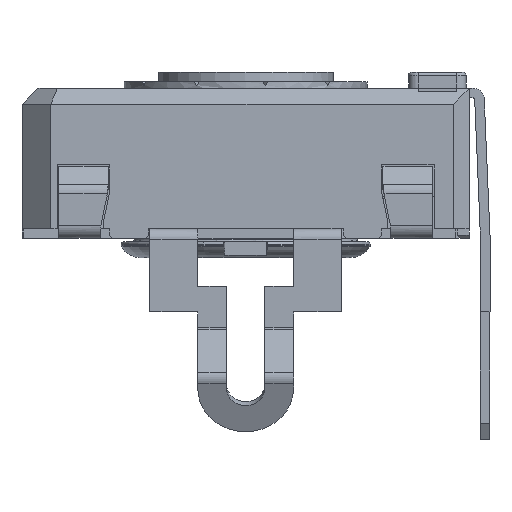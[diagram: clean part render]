
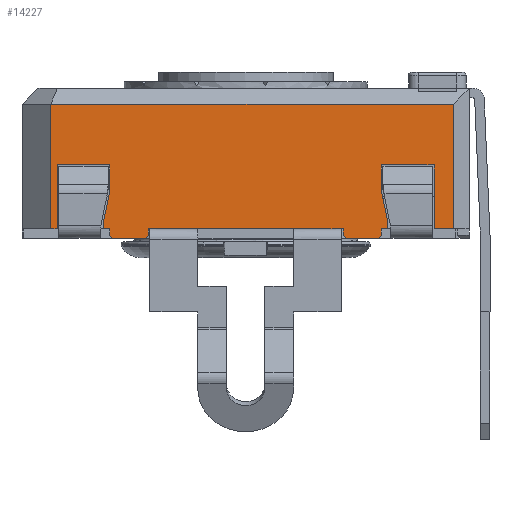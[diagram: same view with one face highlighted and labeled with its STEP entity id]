
A CAD part, left-side view. The second image highlights one B-rep face of the part: STEP entity #14227.
In plain terms, the highlighted planar face has unit normal (-1, 0, 0).
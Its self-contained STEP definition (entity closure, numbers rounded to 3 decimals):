
#485=PLANE('',#15206);
#1142=FACE_OUTER_BOUND('',#1878,.T.);
#1878=EDGE_LOOP('',(#11815,#11816,#11817,#11818,#11819,#11820,#11821,#11822,
#11823,#11824,#11825,#11826,#11827,#11828,#11829,#11830,#11831,#11832,#11833,
#11834,#11835,#11836,#11837,#11838,#11839,#11840,#11841,#11842));
#2441=LINE('',#20220,#4062);
#2446=LINE('',#20230,#4067);
#2451=LINE('',#20240,#4072);
#2562=LINE('',#20488,#4183);
#3069=LINE('',#22049,#4690);
#3074=LINE('',#22058,#4695);
#3077=LINE('',#22064,#4698);
#3081=LINE('',#22071,#4702);
#3105=LINE('',#22119,#4726);
#3108=LINE('',#22125,#4729);
#3113=LINE('',#22135,#4734);
#3116=LINE('',#22141,#4737);
#3119=LINE('',#22147,#4740);
#3134=LINE('',#22174,#4755);
#3146=LINE('',#22196,#4767);
#3148=LINE('',#22201,#4769);
#3183=LINE('',#22329,#4804);
#3186=LINE('',#22335,#4807);
#3191=LINE('',#22345,#4812);
#3193=LINE('',#22348,#4814);
#3300=LINE('',#22627,#4921);
#3302=LINE('',#22632,#4923);
#3305=LINE('',#22636,#4926);
#3307=LINE('',#22640,#4928);
#3310=LINE('',#22648,#4931);
#3311=LINE('',#22650,#4932);
#3312=LINE('',#22651,#4933);
#3313=LINE('',#22652,#4934);
#4062=VECTOR('',#16223,10.);
#4067=VECTOR('',#16228,10.);
#4072=VECTOR('',#16233,10.);
#4183=VECTOR('',#16444,10.);
#4690=VECTOR('',#17681,10.);
#4695=VECTOR('',#17688,10.);
#4698=VECTOR('',#17693,10.);
#4702=VECTOR('',#17699,10.);
#4726=VECTOR('',#17743,10.);
#4729=VECTOR('',#17748,10.);
#4734=VECTOR('',#17755,10.);
#4737=VECTOR('',#17760,10.);
#4740=VECTOR('',#17765,10.);
#4755=VECTOR('',#17782,10.);
#4767=VECTOR('',#17796,10.);
#4769=VECTOR('',#17800,10.);
#4804=VECTOR('',#17879,10.);
#4807=VECTOR('',#17884,10.);
#4812=VECTOR('',#17891,10.);
#4814=VECTOR('',#17895,10.);
#4921=VECTOR('',#18154,10.);
#4923=VECTOR('',#18158,10.);
#4926=VECTOR('',#18163,10.);
#4928=VECTOR('',#18169,10.);
#4931=VECTOR('',#18180,10.);
#4932=VECTOR('',#18181,10.);
#4933=VECTOR('',#18182,10.);
#4934=VECTOR('',#18183,10.);
#6028=VERTEX_POINT('',#20217);
#6029=VERTEX_POINT('',#20219);
#6033=VERTEX_POINT('',#20227);
#6034=VERTEX_POINT('',#20229);
#6038=VERTEX_POINT('',#20237);
#6039=VERTEX_POINT('',#20239);
#6125=VERTEX_POINT('',#20485);
#6126=VERTEX_POINT('',#20487);
#6562=VERTEX_POINT('',#22046);
#6563=VERTEX_POINT('',#22048);
#6567=VERTEX_POINT('',#22061);
#6570=VERTEX_POINT('',#22069);
#6583=VERTEX_POINT('',#22116);
#6585=VERTEX_POINT('',#22122);
#6589=VERTEX_POINT('',#22132);
#6591=VERTEX_POINT('',#22138);
#6594=VERTEX_POINT('',#22145);
#6605=VERTEX_POINT('',#22172);
#6614=VERTEX_POINT('',#22194);
#6616=VERTEX_POINT('',#22199);
#6640=VERTEX_POINT('',#22332);
#6644=VERTEX_POINT('',#22342);
#6711=VERTEX_POINT('',#22624);
#6712=VERTEX_POINT('',#22626);
#6713=VERTEX_POINT('',#22630);
#6714=VERTEX_POINT('',#22631);
#6715=VERTEX_POINT('',#22647);
#6716=VERTEX_POINT('',#22649);
#7450=EDGE_CURVE('',#6029,#6028,#2441,.T.);
#7455=EDGE_CURVE('',#6034,#6033,#2446,.T.);
#7460=EDGE_CURVE('',#6039,#6038,#2451,.T.);
#7586=EDGE_CURVE('',#6126,#6125,#2562,.T.);
#8265=EDGE_CURVE('',#6563,#6562,#3069,.T.);
#8270=EDGE_CURVE('',#6562,#6039,#3074,.T.);
#8273=EDGE_CURVE('',#6038,#6567,#3077,.T.);
#8277=EDGE_CURVE('',#6570,#6567,#3081,.T.);
#8302=EDGE_CURVE('',#6028,#6583,#3105,.T.);
#8305=EDGE_CURVE('',#6583,#6585,#3108,.T.);
#8310=EDGE_CURVE('',#6585,#6589,#3113,.T.);
#8313=EDGE_CURVE('',#6589,#6591,#3116,.T.);
#8316=EDGE_CURVE('',#6591,#6594,#3119,.T.);
#8331=EDGE_CURVE('',#6594,#6605,#3134,.T.);
#8343=EDGE_CURVE('',#6614,#6605,#3146,.T.);
#8345=EDGE_CURVE('',#6616,#6614,#3148,.T.);
#8392=EDGE_CURVE('',#6126,#6616,#3183,.T.);
#8395=EDGE_CURVE('',#6125,#6640,#3186,.T.);
#8400=EDGE_CURVE('',#6640,#6644,#3191,.T.);
#8402=EDGE_CURVE('',#6644,#6563,#3193,.T.);
#8525=EDGE_CURVE('',#6711,#6712,#3300,.T.);
#8527=EDGE_CURVE('',#6713,#6714,#3302,.T.);
#8530=EDGE_CURVE('',#6029,#6711,#3305,.T.);
#8532=EDGE_CURVE('',#6033,#6714,#3307,.T.);
#8535=EDGE_CURVE('',#6570,#6715,#3310,.T.);
#8536=EDGE_CURVE('',#6716,#6715,#3311,.T.);
#8537=EDGE_CURVE('',#6034,#6716,#3312,.T.);
#8538=EDGE_CURVE('',#6713,#6712,#3313,.T.);
#11815=ORIENTED_EDGE('',*,*,#8270,.T.);
#11816=ORIENTED_EDGE('',*,*,#7460,.T.);
#11817=ORIENTED_EDGE('',*,*,#8273,.T.);
#11818=ORIENTED_EDGE('',*,*,#8277,.F.);
#11819=ORIENTED_EDGE('',*,*,#8535,.T.);
#11820=ORIENTED_EDGE('',*,*,#8536,.F.);
#11821=ORIENTED_EDGE('',*,*,#8537,.F.);
#11822=ORIENTED_EDGE('',*,*,#7455,.T.);
#11823=ORIENTED_EDGE('',*,*,#8532,.T.);
#11824=ORIENTED_EDGE('',*,*,#8527,.F.);
#11825=ORIENTED_EDGE('',*,*,#8538,.T.);
#11826=ORIENTED_EDGE('',*,*,#8525,.F.);
#11827=ORIENTED_EDGE('',*,*,#8530,.F.);
#11828=ORIENTED_EDGE('',*,*,#7450,.T.);
#11829=ORIENTED_EDGE('',*,*,#8302,.T.);
#11830=ORIENTED_EDGE('',*,*,#8305,.T.);
#11831=ORIENTED_EDGE('',*,*,#8310,.T.);
#11832=ORIENTED_EDGE('',*,*,#8313,.T.);
#11833=ORIENTED_EDGE('',*,*,#8316,.T.);
#11834=ORIENTED_EDGE('',*,*,#8331,.T.);
#11835=ORIENTED_EDGE('',*,*,#8343,.F.);
#11836=ORIENTED_EDGE('',*,*,#8345,.F.);
#11837=ORIENTED_EDGE('',*,*,#8392,.F.);
#11838=ORIENTED_EDGE('',*,*,#7586,.T.);
#11839=ORIENTED_EDGE('',*,*,#8395,.T.);
#11840=ORIENTED_EDGE('',*,*,#8400,.T.);
#11841=ORIENTED_EDGE('',*,*,#8402,.T.);
#11842=ORIENTED_EDGE('',*,*,#8265,.T.);
#14227=ADVANCED_FACE('',(#1142),#485,.T.);
#15206=AXIS2_PLACEMENT_3D('',#22646,#18178,#18179);
#16223=DIRECTION('',(0.,-1.,0.));
#16228=DIRECTION('',(0.,-1.,0.));
#16233=DIRECTION('',(0.,-1.,0.));
#16444=DIRECTION('',(0.,-1.,0.));
#17681=DIRECTION('',(0.,0.208,-0.978));
#17688=DIRECTION('',(0.,0.,-1.));
#17693=DIRECTION('',(0.,0.,-1.));
#17699=DIRECTION('',(0.,0.707,0.707));
#17743=DIRECTION('',(0.,0.,1.));
#17748=DIRECTION('',(0.,0.208,0.978));
#17755=DIRECTION('',(0.,0.,1.));
#17760=DIRECTION('',(0.,-1.,0.));
#17765=DIRECTION('',(0.,0.,-1.));
#17782=DIRECTION('',(0.,-1.,0.));
#17796=DIRECTION('',(0.,0.,-1.));
#17800=DIRECTION('',(0.,-1.,0.));
#17879=DIRECTION('',(0.,0.,1.));
#17884=DIRECTION('',(0.,0.,1.));
#17891=DIRECTION('',(0.,-1.,0.));
#17895=DIRECTION('',(0.,0.,-1.));
#18154=DIRECTION('',(0.,0.707,-0.707));
#18158=DIRECTION('',(0.,0.707,0.707));
#18163=DIRECTION('',(0.,0.,-1.));
#18169=DIRECTION('',(0.,0.,-1.));
#18178=DIRECTION('center_axis',(-1.,0.,0.));
#18179=DIRECTION('ref_axis',(0.,0.,1.));
#18180=DIRECTION('',(0.,-1.,0.));
#18181=DIRECTION('',(0.,0.707,-0.707));
#18182=DIRECTION('',(0.,0.,-1.));
#18183=DIRECTION('',(0.,-1.,0.));
#20217=CARTESIAN_POINT('',(-14.467,-7.348,0.));
#20219=CARTESIAN_POINT('',(-14.467,-7.148,0.));
#20220=CARTESIAN_POINT('',(-14.467,4.102,0.));
#20227=CARTESIAN_POINT('',(-14.467,-5.948,0.));
#20229=CARTESIAN_POINT('',(-14.467,0.152,0.));
#20230=CARTESIAN_POINT('',(-14.467,4.102,0.));
#20237=CARTESIAN_POINT('',(-14.467,1.352,0.));
#20239=CARTESIAN_POINT('',(-14.467,1.552,0.));
#20240=CARTESIAN_POINT('',(-14.467,4.102,0.));
#20485=CARTESIAN_POINT('',(-14.467,3.002,0.));
#20487=CARTESIAN_POINT('',(-14.467,3.202,0.));
#20488=CARTESIAN_POINT('',(-14.467,-2.985,0.));
#22046=CARTESIAN_POINT('',(-14.467,1.552,0.235));
#22048=CARTESIAN_POINT('',(-14.467,1.352,1.176));
#22049=CARTESIAN_POINT('',(-14.467,1.228,1.757));
#22058=CARTESIAN_POINT('',(-14.467,1.552,0.));
#22061=CARTESIAN_POINT('',(-14.467,1.352,-0.2));
#22064=CARTESIAN_POINT('',(-14.467,1.352,0.));
#22069=CARTESIAN_POINT('',(-14.467,1.252,-0.3));
#22071=CARTESIAN_POINT('',(-14.467,-1.436,-2.988));
#22116=CARTESIAN_POINT('',(-14.467,-7.348,0.235));
#22119=CARTESIAN_POINT('',(-14.467,-7.348,0.118));
#22122=CARTESIAN_POINT('',(-14.467,-7.148,1.176));
#22125=CARTESIAN_POINT('',(-14.467,-7.453,-0.254));
#22132=CARTESIAN_POINT('',(-14.467,-7.148,2.));
#22135=CARTESIAN_POINT('',(-14.467,-7.148,0.588));
#22138=CARTESIAN_POINT('',(-14.467,-8.798,2.));
#22141=CARTESIAN_POINT('',(-14.467,-8.523,2.));
#22145=CARTESIAN_POINT('',(-14.467,-8.798,0.));
#22147=CARTESIAN_POINT('',(-14.467,-8.798,0.));
#22172=CARTESIAN_POINT('',(-14.467,-9.398,0.));
#22174=CARTESIAN_POINT('',(-14.467,-9.595,0.));
#22194=CARTESIAN_POINT('',(-14.467,-9.398,3.9));
#22196=CARTESIAN_POINT('',(-14.467,-9.398,0.));
#22199=CARTESIAN_POINT('',(-14.467,3.202,3.9));
#22201=CARTESIAN_POINT('',(-14.467,-6.398,3.9));
#22329=CARTESIAN_POINT('',(-14.467,3.202,0.));
#22332=CARTESIAN_POINT('',(-14.467,3.002,2.));
#22335=CARTESIAN_POINT('',(-14.467,3.002,0.));
#22342=CARTESIAN_POINT('',(-14.467,1.352,2.));
#22345=CARTESIAN_POINT('',(-14.467,-3.448,2.));
#22348=CARTESIAN_POINT('',(-14.467,1.352,1.));
#22624=CARTESIAN_POINT('',(-14.467,-7.148,-0.2));
#22626=CARTESIAN_POINT('',(-14.467,-7.048,-0.3));
#22627=CARTESIAN_POINT('',(-14.467,-7.861,0.513));
#22630=CARTESIAN_POINT('',(-14.467,-6.048,-0.3));
#22631=CARTESIAN_POINT('',(-14.467,-5.948,-0.2));
#22632=CARTESIAN_POINT('',(-14.467,-6.911,-1.163));
#22636=CARTESIAN_POINT('',(-14.467,-7.148,0.));
#22640=CARTESIAN_POINT('',(-14.467,-5.948,0.));
#22646=CARTESIAN_POINT('Origin',(-14.467,-9.898,0.));
#22647=CARTESIAN_POINT('',(-14.467,0.252,-0.3));
#22648=CARTESIAN_POINT('',(-14.467,0.152,-0.3));
#22649=CARTESIAN_POINT('',(-14.467,0.152,-0.2));
#22650=CARTESIAN_POINT('',(-14.467,-2.386,2.338));
#22651=CARTESIAN_POINT('',(-14.467,0.152,0.));
#22652=CARTESIAN_POINT('',(-14.467,-7.148,-0.3));
